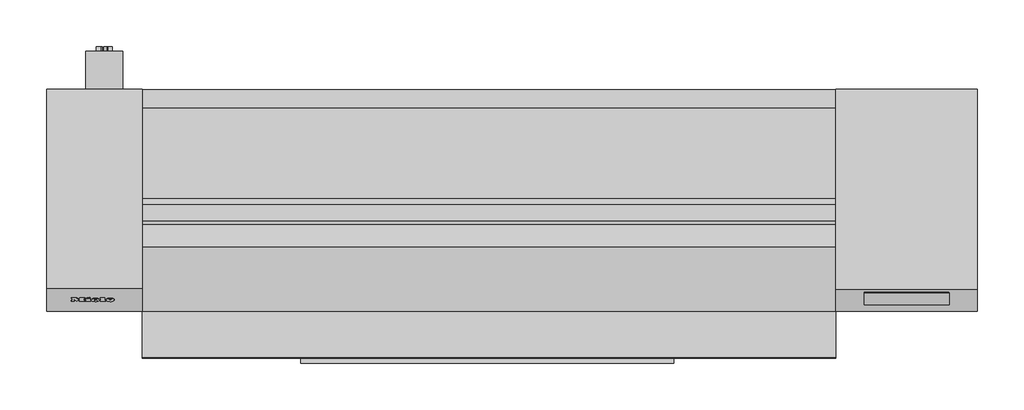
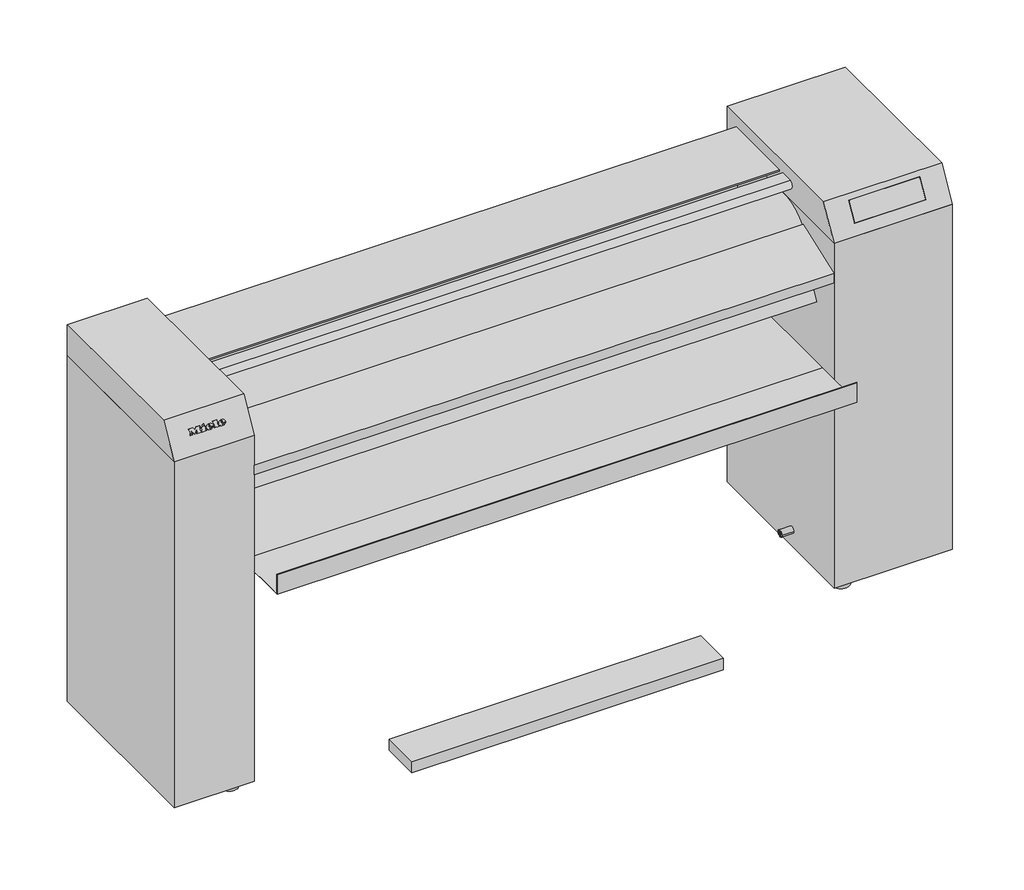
# Not in any storey: 1 proxy.
"""IFC4 building model written with IfcOpenShell, lengths in millimetres."""

import ifcopenshell
import ifcopenshell.guid

model = None  # the IFC model being written
_history = None  # IfcOwnerHistory: only IFC2X3 demands one
_inside = {}  # id of a spatial element -> (the spatial element, [elements in it])
_under = {}  # id of a project, library or spatial element -> (it, [spatial elements below it])
_declared = {}  # id of a project -> (the project, [libraries it declares])
_typed = {}  # id of a type object -> (the type object, [elements of that type])
_made_of = {}  # id of a material, layer set ... -> (it, [elements and type objects made of it])


def new_model(schema):
    """Start an empty IFC model of exactly this schema.

    Asked for "IFC4X3", IfcOpenShell would pick the latest addendum, in which some entities
    have other attributes; the version numbers below select the first issue.
    IFC2X3 requires an IfcOwnerHistory on every rooted entity: one is made here for all.
    """
    global model, _history
    if schema == "IFC4X3":
        model = ifcopenshell.file(schema_version=(4, 3, 0, 0))
    else:
        model = ifcopenshell.file(schema=schema)
    _inside.clear()
    _under.clear()
    _declared.clear()
    _typed.clear()
    _made_of.clear()
    _history = None
    if model.schema == "IFC2X3":
        org = make("IfcOrganization", Name="unknown")
        user = make(
            "IfcPersonAndOrganization",
            ThePerson=make("IfcPerson", FamilyName="unknown"),
            TheOrganization=org,
        )
        app = make(
            "IfcApplication",
            ApplicationDeveloper=org,
            Version="unknown",
            ApplicationFullName="unknown",
            ApplicationIdentifier="unknown",
        )
        _history = make(
            "IfcOwnerHistory",
            OwningUser=user,
            OwningApplication=app,
            ChangeAction="ADDED",
            CreationDate=0,
        )
    return model


def make(cls, **values):
    """One entity of the class cls with the attributes given. An attribute that is None is left unset."""
    return model.create_entity(
        cls, **{name: value for name, value in values.items() if value is not None}
    )


def rooted(cls, **values):
    """An entity with a GlobalId (a new one), such as an element, a storey or a relation."""
    return make(cls, GlobalId=ifcopenshell.guid.new(), OwnerHistory=_history, **values)


def si_unit(unit_type, name, prefix=None):
    """IfcSIUnit, for example si_unit("LENGTHUNIT", "METRE", prefix="MILLI")."""
    return make("IfcSIUnit", UnitType=unit_type, Prefix=prefix, Name=name)


def assignment(units):
    """IfcUnitAssignment: the units of a project."""
    return None if units is None else make("IfcUnitAssignment", Units=units)


def point(xyz):
    """IfcCartesianPoint."""
    return None if xyz is None else make("IfcCartesianPoint", Coordinates=xyz)


def direction(xyz):
    """IfcDirection."""
    return None if xyz is None else make("IfcDirection", DirectionRatios=xyz)


def frame(location, z_axis=None, x_axis=None):
    """IfcAxis2Placement3D, a coordinate frame: its origin and axes. An axis left out is left unset."""
    return make(
        "IfcAxis2Placement3D",
        Location=point(location),
        Axis=direction(z_axis),
        RefDirection=direction(x_axis),
    )


def frame_2d(location, x_axis=None):
    """IfcAxis2Placement2D, a coordinate frame in the plane: its origin and x axis."""
    return make(
        "IfcAxis2Placement2D", Location=point(location), RefDirection=direction(x_axis)
    )


def origin():
    """The frame at (0, 0, 0) with its axes left unset."""
    return frame((0.0, 0.0, 0.0))


def place(relative_to, where):
    """IfcLocalPlacement: puts the frame where relative to a parent placement (None: the world)."""
    return make(
        "IfcLocalPlacement", PlacementRelTo=relative_to, RelativePlacement=where
    )


def context(
    kind, dimensions, precision=None, world=None, true_north=None, identifier=None
):
    """IfcGeometricRepresentationContext, for example the 3D "Model" context."""
    return make(
        "IfcGeometricRepresentationContext",
        ContextIdentifier=identifier,
        ContextType=kind,
        CoordinateSpaceDimension=dimensions,
        Precision=precision,
        WorldCoordinateSystem=world,
        TrueNorth=true_north,
    )


def project(units=None, contexts=None):
    """IfcProject with its units and contexts."""
    return rooted(
        "IfcProject",
        Name="project",
        RepresentationContexts=contexts,
        UnitsInContext=assignment(units),
    )


def spatial(cls, under=None, at=None, **own):
    """A site, building, storey or space (cls), placed at a placement, below another one or the project."""
    s = rooted(cls, ObjectPlacement=at, **own)
    if under is not None:
        _under.setdefault(under.id(), (under, []))[1].append(s)
    return s


def polyline(points):
    """IfcPolyline through the points."""
    return make("IfcPolyline", Points=[point(p) for p in points])


def circle_curve(where, radius):
    """IfcCircle in the frame where."""
    return make("IfcCircle", Position=where, Radius=radius)


def ellipse_curve(where, semi_axis1, semi_axis2):
    """IfcEllipse in the frame where."""
    return make(
        "IfcEllipse", Position=where, SemiAxis1=semi_axis1, SemiAxis2=semi_axis2
    )


def trimmed(basis, trim1, trim2, sense, master):
    """IfcTrimmedCurve: the piece of a basis curve between two trims."""
    return make(
        "IfcTrimmedCurve",
        BasisCurve=basis,
        Trim1=trim1,
        Trim2=trim2,
        SenseAgreement=sense,
        MasterRepresentation=master,
    )


def segment(curve, same_sense, transition):
    """IfcCompositeCurveSegment."""
    return make(
        "IfcCompositeCurveSegment",
        Transition=transition,
        SameSense=same_sense,
        ParentCurve=curve,
    )


def composite_curve(segments, self_intersect=None):
    """IfcCompositeCurve: segments joined end to end."""
    return make("IfcCompositeCurve", Segments=segments, SelfIntersect=self_intersect)


def outline(outer, holes=None, kind="AREA"):
    """IfcArbitraryClosedProfileDef: a profile drawn as a closed curve; with holes, ...WithVoids."""
    if holes is None:
        return make("IfcArbitraryClosedProfileDef", ProfileType=kind, OuterCurve=outer)
    return make(
        "IfcArbitraryProfileDefWithVoids",
        ProfileType=kind,
        OuterCurve=outer,
        InnerCurves=holes,
    )


def extrude(swept, where, along, depth):
    """IfcExtrudedAreaSolid: the profile swept, set in the frame where, extruded along a direction by depth."""
    return make(
        "IfcExtrudedAreaSolid",
        SweptArea=swept,
        Position=where,
        ExtrudedDirection=direction(along),
        Depth=depth,
    )


def faces_of(points, faces, orient=None, outer=None):
    """IfcFace entities. A face is a list of loops; a loop is a list of indices into points, from 0.

    orient and outer hold one flag for each loop. By default every Orientation is true, the
    first loop of a face is its IfcFaceOuterBound and the others are IfcFaceBound.
    """
    made = []
    for i, loops in enumerate(faces):
        bounds = []
        for j, loop in enumerate(loops):
            is_outer = j == 0 if outer is None else outer[i][j]
            bounds.append(
                make(
                    "IfcFaceOuterBound" if is_outer else "IfcFaceBound",
                    Bound=make("IfcPolyLoop", Polygon=[points[k] for k in loop]),
                    Orientation=True if orient is None else orient[i][j],
                )
            )
        made.append(make("IfcFace", Bounds=bounds))
    return made


def faceted_brep(points, faces, orient=None, outer=None, voids=None):
    """IfcFacetedBrep: a solid bounded by flat faces; with voids (closed shells), ...WithVoids."""
    shared = [point(p) for p in points]
    hull = make("IfcClosedShell", CfsFaces=faces_of(shared, faces, orient, outer))
    if voids is None:
        return make("IfcFacetedBrep", Outer=hull)
    return make(
        "IfcFacetedBrepWithVoids",
        Outer=hull,
        Voids=[
            make(cls, CfsFaces=faces_of(shared, fs, o, b)) for cls, fs, o, b in voids
        ],
    )


def shape(context_of_items, identifier, shape_type, items):
    """IfcShapeRepresentation: the items that make up one representation, for example the "Body"."""
    return make(
        "IfcShapeRepresentation",
        ContextOfItems=context_of_items,
        RepresentationIdentifier=identifier,
        RepresentationType=shape_type,
        Items=items,
    )


def source(mapping_origin, context_of_items, identifier, shape_type, items):
    """IfcRepresentationMap: a shape defined once, which mapped items show again and again."""
    return make(
        "IfcRepresentationMap",
        MappingOrigin=mapping_origin,
        MappedRepresentation=shape(context_of_items, identifier, shape_type, items),
    )


def transform(
    local_origin,
    x_axis=None,
    y_axis=None,
    z_axis=None,
    scale=None,
    scale2=None,
    scale3=None,
    uniform=True,
):
    """IfcCartesianTransformationOperator3D, or its non-uniform kind. x_axis, y_axis, z_axis: its Axis1, 2, 3."""
    if uniform:
        return make(
            "IfcCartesianTransformationOperator3D",
            Axis1=direction(x_axis),
            Axis2=direction(y_axis),
            LocalOrigin=point(local_origin),
            Scale=scale,
            Axis3=direction(z_axis),
        )
    return make(
        "IfcCartesianTransformationOperator3DnonUniform",
        Axis1=direction(x_axis),
        Axis2=direction(y_axis),
        LocalOrigin=point(local_origin),
        Scale=scale,
        Axis3=direction(z_axis),
        Scale2=scale2,
        Scale3=scale3,
    )


def mapped(mapping_source, mapping_target):
    """IfcMappedItem: shows the shape of a source again, moved by a transform."""
    return make(
        "IfcMappedItem", MappingSource=mapping_source, MappingTarget=mapping_target
    )


def made_of(thing, what):
    """Note that an element or type object is made of a material, layer set ...; save() writes the relation."""
    if what is not None:
        _made_of.setdefault(what.id(), (what, []))[1].append(thing)
    return thing


def element(
    cls,
    number,
    at=None,
    inside=None,
    cuts=None,
    type_object=None,
    material=None,
    context=None,
    identifier="Body",
    shape_type=None,
    held_by="IfcProductDefinitionShape",
    body=None,
    shapes=None,
    **own,
):
    """One element of the class cls, such as IfcWall. Its Tag is "e" and its number.

    at: its placement. inside: the storey or other place that contains it. cuts: it is an
    opening in that element (IfcRelVoidsElement). A single representation is given by context,
    identifier, shape_type and body (its items); several are given by shapes. held_by: the class
    of the entity that holds the representations. save() writes the other relations.
    """
    e = rooted(cls, Tag="e%d" % number, ObjectPlacement=at, **own)
    if body is not None:
        shapes = [shape(context, identifier, shape_type, body)]
    if shapes is not None:
        e.Representation = make(held_by, Representations=shapes)
    if inside is not None:
        _inside.setdefault(inside.id(), (inside, []))[1].append(e)
    if cuts is not None:
        rooted(
            "IfcRelVoidsElement", RelatingBuildingElement=cuts, RelatedOpeningElement=e
        )
    if type_object is not None:
        _typed.setdefault(type_object.id(), (type_object, []))[1].append(e)
    return made_of(e, material)


def aggregate(whole, parts):
    """IfcRelAggregates: a whole, such as a stair, and the parts it consists of."""
    return rooted("IfcRelAggregates", RelatingObject=whole, RelatedObjects=parts)


def save(model, path):
    """Write the relations noted so far, then the file.

    IfcRelAggregates (storeys below a building ...), IfcRelContainedInSpatialStructure (elements
    in a storey), IfcRelDefinesByType, IfcRelAssociatesMaterial and IfcRelDeclares: one each for
    every whole, place, type object, material and project.
    """
    for whole, parts in _under.values():
        aggregate(whole, parts)
    for where, things in _inside.values():
        rooted(
            "IfcRelContainedInSpatialStructure",
            RelatedElements=things,
            RelatingStructure=where,
        )
    for kind, things in _typed.values():
        rooted("IfcRelDefinesByType", RelatedObjects=things, RelatingType=kind)
    for what, things in _made_of.values():
        rooted("IfcRelAssociatesMaterial", RelatedObjects=things, RelatingMaterial=what)
    for by, libraries in _declared.values():
        rooted("IfcRelDeclares", RelatingContext=by, RelatedDefinitions=libraries)
    model.write(path)


def plane_surface(at):
    """IfcPlane: the flat surface through the origin of the frame at, square to its z axis."""
    return make("IfcPlane", Position=at)


def cylinder_surface(at, radius):
    """IfcCylindricalSurface: all points at the distance radius from the z axis of the frame at."""
    return make("IfcCylindricalSurface", Position=at, Radius=radius)


def revolved_surface(curve, axis_point, axis_direction):
    """IfcSurfaceOfRevolution: the curve turned about the line through axis_point along axis_direction."""
    return make(
        "IfcSurfaceOfRevolution",
        SweptCurve=make("IfcArbitraryOpenProfileDef", ProfileType="CURVE", Curve=curve),
        AxisPosition=make("IfcAxis1Placement", Location=point(axis_point), Axis=direction(axis_direction)),
    )


def extruded_surface(curve, direction_of_extrusion, depth):
    """IfcSurfaceOfLinearExtrusion: the curve pushed along a direction by depth."""
    return make(
        "IfcSurfaceOfLinearExtrusion",
        SweptCurve=make("IfcArbitraryOpenProfileDef", ProfileType="CURVE", Curve=curve),
        ExtrudedDirection=direction(direction_of_extrusion),
        Depth=depth,
    )


def advanced_brep(points, edges, surfaces, faces):
    """IfcAdvancedBrep: a solid bounded by faces that lie on surfaces and meet in shared edges.

    An edge is (start, end): straight between two places in points (the first is 0);
    or (start, end, curve); or (start, end, curve, False) where it runs against its curve.
    A face is (place in surfaces, loops), or (place, loops, False) where it looks against
    its surface's normal. A loop lists edges by number (the first is 1), with a minus sign
    where the edge is run from its end to its start. The first loop is the outer one.
    """
    corners = [point(p) for p in points]
    vertices = [make("IfcVertexPoint", VertexGeometry=c) for c in corners]
    made = []
    for start, end, *more in edges:
        made.append(
            make(
                "IfcEdgeCurve",
                EdgeStart=vertices[start],
                EdgeEnd=vertices[end],
                EdgeGeometry=more[0] if more else make("IfcPolyline", Points=[corners[start], corners[end]]),
                SameSense=more[1] if len(more) > 1 else True,
            )
        )
    hull = []
    for where, loops, *sense in faces:
        bounds = []
        for j, loop in enumerate(loops):
            ring = [make("IfcOrientedEdge", EdgeElement=made[abs(k) - 1], Orientation=k > 0) for k in loop]
            bounds.append(
                make(
                    "IfcFaceOuterBound" if j == 0 else "IfcFaceBound",
                    Bound=make("IfcEdgeLoop", EdgeList=ring),
                    Orientation=True,
                )
            )
        hull.append(make("IfcAdvancedFace", Bounds=bounds, FaceSurface=surfaces[where], SameSense=sense[0] if sense else True))
    return make("IfcAdvancedBrep", Outer=make("IfcClosedShell", CfsFaces=hull))


def specialty_equipment_5863dd85(model_context):
    return source(origin(), model_context, "Body", "SolidModel", [
        advanced_brep(
        [(-852.7523169, -447.1698462, 991.5429863), (-852.7523169, -446.4123462, 992.8550148), (-842.7173169, -446.4123462, 992.8550148), (-860.1773169, -446.4123462, 992.8550148), (-856.0523169, -448.9473462, 988.464266), (-842.9723169, -447.1698462, 991.5429863), (-847.5023169, -447.1698462, 991.5429863), (-851.0723169, -448.0098462, 990.0880637), (-852.7523169, -445.4523462, 994.5177836), (-852.7523169, -444.6348462, 995.9337351), (-850.1873169, -444.6348462, 995.9337351), (-850.1873169, -445.4523462, 994.5177836), (-852.7523169, -446.3038208, 991.0429863), (-851.0723169, -447.1438208, 989.5880637), (-847.5023169, -446.3038208, 991.0429863), (-842.9723169, -446.3038208, 991.0429863), (-856.0523169, -448.0813208, 987.964266), (-860.1773169, -445.5463208, 992.3550148), (-842.7173169, -445.5463208, 992.3550148), (-852.7523169, -445.5463208, 992.3550148), (-852.7523169, -444.5863208, 994.0177836), (-850.1873169, -444.5863208, 994.0177836), (-850.1873169, -443.7688208, 995.4337351), (-852.7523169, -443.7688208, 995.4337351)],
        [
            (0, 1),
            (1, 2),
            (2, 3, ellipse_curve(frame((-851.4473169, -446.4123462, 992.8550148), z_axis=(0.0, -0.8660254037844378, 0.5000000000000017), x_axis=(-1.0, 0.0, 0.0)), 8.73, 7.215)),
            (3, 4, circle_curve(frame((-854.3722351, -446.1573462, 993.2966878), z_axis=(0.0, -0.8660254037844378, 0.5000000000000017), x_axis=(0.0, -0.5000000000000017, -0.8660254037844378)), 5.8274415)),
            (4, 5, circle_curve(frame((-851.6220789, -444.1773462, 996.7261484), z_axis=(0.0, -0.8660254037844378, 0.5000000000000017), x_axis=(0.0, -0.5000000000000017, -0.8660254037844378)), 10.5184889)),
            (5, 6),
            (6, 7, circle_curve(frame((-850.3390816, -446.4723462, 992.7510918), z_axis=(0.0, 0.8660254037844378, -0.5000000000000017), x_axis=(0.0, -0.5000000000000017, -0.8660254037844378)), 3.1612116)),
            (7, 0, circle_curve(frame((-851.0723169, -447.1698462, 991.5429863), z_axis=(0.0, 0.8660254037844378, -0.5000000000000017), x_axis=(0.0, -0.5000000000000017, -0.8660254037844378)), 1.68)),
            (8, 9),
            (9, 10, circle_curve(frame((-851.4698169, -444.6348462, 995.9337351), z_axis=(0.0, 0.8660254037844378, -0.5000000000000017), x_axis=(0.0, -0.5000000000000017, -0.8660254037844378)), 1.2825)),
            (10, 11),
            (11, 8),
            (12, 13, circle_curve(frame((-851.0723169, -446.3038208, 991.0429863), z_axis=(0.0, -0.8660254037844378, 0.5000000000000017), x_axis=(0.0, -0.5000000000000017, -0.8660254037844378)), 1.68)),
            (13, 14, circle_curve(frame((-850.3390816, -445.6063208, 992.2510918), z_axis=(0.0, -0.8660254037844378, 0.5000000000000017), x_axis=(0.0, -0.5000000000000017, -0.8660254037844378)), 3.1612116)),
            (14, 15),
            (15, 16, circle_curve(frame((-851.6220789, -443.3113208, 996.2261484), z_axis=(0.0, 0.8660254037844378, -0.5000000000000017), x_axis=(0.0, -0.5000000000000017, -0.8660254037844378)), 10.5184889)),
            (16, 17, circle_curve(frame((-854.3722351, -445.2913208, 992.7966878), z_axis=(0.0, 0.8660254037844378, -0.5000000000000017), x_axis=(0.0, -0.5000000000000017, -0.8660254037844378)), 5.8274415)),
            (17, 18, ellipse_curve(frame((-851.4473169, -445.5463208, 992.3550148), z_axis=(0.0, 0.8660254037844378, -0.5000000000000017), x_axis=(-1.0, 0.0, 0.0)), 8.73, 7.215)),
            (18, 19),
            (19, 12),
            (20, 21),
            (21, 22),
            (22, 23, circle_curve(frame((-851.4698169, -443.7688208, 995.4337351), z_axis=(0.0, -0.8660254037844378, 0.5000000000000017), x_axis=(0.0, -0.5000000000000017, -0.8660254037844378)), 1.2825)),
            (23, 20),
            (0, 12),
            (19, 1),
            (18, 2),
            (5, 15),
            (14, 6),
            (17, 3),
            (13, 7),
            (16, 4),
            (8, 20),
            (23, 9),
            (22, 10),
            (21, 11),
        ],
        [
            plane_surface(frame((-852.7523169, -446.4123462, 992.8550148), z_axis=(0.0, -0.8660254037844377, 0.5000000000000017), x_axis=(0.0, 0.5000000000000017, 0.8660254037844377))),
            plane_surface(frame((-852.7523169, -445.5463208, 992.3550148), z_axis=(0.0, 0.8660254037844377, -0.5000000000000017), x_axis=(0.0, -0.5000000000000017, -0.8660254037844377))),
            plane_surface(frame((-852.7523169, -447.1698462, 991.5429863), z_axis=(1.0, 0.0, 0.0), x_axis=(0.0, 0.866025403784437, -0.5000000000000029))),
            plane_surface(frame((-852.7523169, -446.4123462, 992.8550148), z_axis=(0.0, -0.5000000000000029, -0.866025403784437), x_axis=(0.0, 0.866025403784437, -0.5000000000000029))),
            plane_surface(frame((-842.9723169, -447.1698462, 991.5429863), z_axis=(0.0, 0.5000000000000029, 0.866025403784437), x_axis=(0.0, 0.866025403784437, -0.5000000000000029))),
            extruded_surface(trimmed(ellipse_curve(frame((-851.4473169, -444.6802954, 991.8550148), z_axis=(0.0, -0.8660254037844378, 0.5000000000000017), x_axis=(-1.0, 0.0, 0.0)), 8.73, 7.215), [point((-842.7173169, -444.6802954, 991.8550148))], [point((-860.1773169, -444.6802954, 991.8550148))], True, "CARTESIAN"), (0.0, -0.8660254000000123, 0.5), 0.9999999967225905),
            revolved_surface(polyline([(-850.3390816, -447.18692657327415, 989.5134022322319), (-850.3390816, -448.0529520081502, 990.0134022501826)]), (-850.3390816, -445.6063208, 992.2510918), (0.0, 0.8660254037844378, -0.5000000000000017)),
            revolved_surface(polyline([(-851.0723169, -447.14382079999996, 989.5880636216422), (-851.0723169, -448.009846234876, 990.088063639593)]), (-851.0723169, -446.3038208, 991.0429863), (0.0, 0.8660254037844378, -0.5000000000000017)),
            cylinder_surface(frame((-854.3722351, -445.2913208, 992.7966878), z_axis=(0.0, -0.8660254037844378, 0.5000000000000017), x_axis=(0.0, -0.5000000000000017, -0.8660254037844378)), 5.8274415),
            cylinder_surface(frame((-851.6220789, -443.3113208, 996.2261484), z_axis=(0.0, -0.8660254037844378, 0.5000000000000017), x_axis=(0.0, -0.5000000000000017, -0.8660254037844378)), 10.5184889),
            plane_surface(frame((-852.7523169, -445.4523462, 994.5177836), z_axis=(1.0, 0.0, 0.0), x_axis=(0.0, 0.866025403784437, -0.5000000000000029))),
            revolved_surface(polyline([(-851.4698169, -444.4100708, 994.3230575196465), (-851.4698169, -445.27609620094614, 994.8230575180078)]), (-851.4698169, -443.7688208, 995.4337351), (0.0, 0.8660254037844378, -0.5000000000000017)),
            plane_surface(frame((-850.1873169, -444.6348462, 995.9337351), z_axis=(-1.0, 0.0, 0.0), x_axis=(0.0, 0.866025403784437, -0.5000000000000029))),
            plane_surface(frame((-850.1873169, -445.4523462, 994.5177836), z_axis=(0.0, 0.5000000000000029, 0.866025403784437), x_axis=(0.0, 0.866025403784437, -0.5000000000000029))),
        ],
        [
            (0, [[1, 2, 3, 4, 5, 6, 7, 8], [9, 10, 11, 12]]),
            (1, [[13, 14, 15, 16, 17, 18, 19, 20], [21, 22, 23, 24]]),
            (2, [[-1, 25, -20, 26]]),
            (3, [[-2, -26, -19, 27]]),
            (4, [[-6, 28, -15, 29]]),
            (5, [[-3, -27, -18, 30]]),
            (6, [[-7, -29, -14, 31]]),
            (7, [[-8, -31, -13, -25]]),
            (8, [[-4, -30, -17, 32]]),
            (9, [[-5, -32, -16, -28]]),
            (10, [[-9, 33, -24, 34]]),
            (11, [[-10, -34, -23, 35]]),
            (12, [[-11, -35, -22, 36]]),
            (13, [[-12, -36, -21, -33]]),
        ],
    ),
        advanced_brep(
        [(-884.0573169, -447.2109601, 991.7728003), (-884.0573169, -446.4534601, 993.0848288), (-874.0223169, -446.4534601, 993.0848288), (-891.4823169, -446.4534601, 993.0848288), (-887.3573169, -448.9884601, 988.69408), (-874.2773169, -447.2109601, 991.7728003), (-878.8073169, -447.2109601, 991.7728003), (-882.3773169, -448.0509601, 990.3178776), (-884.0573169, -445.4934601, 994.7475976), (-884.0573169, -444.6759601, 996.1635491), (-881.4923169, -444.6759601, 996.1635491), (-881.4923169, -445.4934601, 994.7475976), (-884.0573169, -446.3449347, 991.2728003), (-882.3773169, -447.1849347, 989.8178776), (-878.8073169, -446.3449347, 991.2728003), (-874.2773169, -446.3449347, 991.2728003), (-887.3573169, -448.1224347, 988.19408), (-891.4823169, -445.5874347, 992.5848288), (-874.0223169, -445.5874347, 992.5848288), (-884.0573169, -445.5874347, 992.5848288), (-884.0573169, -444.6274347, 994.2475976), (-881.4923169, -444.6274347, 994.2475976), (-881.4923169, -443.8099347, 995.6635491), (-884.0573169, -443.8099347, 995.6635491)],
        [
            (0, 1),
            (1, 2),
            (2, 3, ellipse_curve(frame((-882.7523169, -446.4534601, 993.0848288), z_axis=(0.0, -0.8660254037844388, 0.4999999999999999), x_axis=(-1.0, 0.0, 0.0)), 8.73, 7.215)),
            (3, 4, circle_curve(frame((-885.6772351, -446.1984601, 993.5265018), z_axis=(0.0, -0.8660254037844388, 0.4999999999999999), x_axis=(0.0, -0.4999999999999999, -0.8660254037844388)), 5.8274415)),
            (4, 5, circle_curve(frame((-882.9270789, -444.2184601, 996.9559624), z_axis=(0.0, -0.8660254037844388, 0.4999999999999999), x_axis=(0.0, -0.4999999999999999, -0.8660254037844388)), 10.5184889)),
            (5, 6),
            (6, 7, circle_curve(frame((-881.6440816, -446.5134601, 992.9809058), z_axis=(0.0, 0.8660254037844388, -0.4999999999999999), x_axis=(0.0, -0.4999999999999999, -0.8660254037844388)), 3.1612116)),
            (7, 0, circle_curve(frame((-882.3773169, -447.2109601, 991.7728003), z_axis=(0.0, 0.8660254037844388, -0.4999999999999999), x_axis=(0.0, -0.4999999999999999, -0.8660254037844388)), 1.68)),
            (8, 9),
            (9, 10, circle_curve(frame((-882.7748169, -444.6759601, 996.1635491), z_axis=(0.0, 0.8660254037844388, -0.4999999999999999), x_axis=(0.0, -0.4999999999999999, -0.8660254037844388)), 1.2825)),
            (10, 11),
            (11, 8),
            (12, 13, circle_curve(frame((-882.3773169, -446.3449347, 991.2728003), z_axis=(0.0, -0.8660254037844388, 0.4999999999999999), x_axis=(0.0, -0.4999999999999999, -0.8660254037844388)), 1.68)),
            (13, 14, circle_curve(frame((-881.6440816, -445.6474347, 992.4809058), z_axis=(0.0, -0.8660254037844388, 0.4999999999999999), x_axis=(0.0, -0.4999999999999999, -0.8660254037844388)), 3.1612116)),
            (14, 15),
            (15, 16, circle_curve(frame((-882.9270789, -443.3524347, 996.4559624), z_axis=(0.0, 0.8660254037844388, -0.4999999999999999), x_axis=(0.0, -0.4999999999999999, -0.8660254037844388)), 10.5184889)),
            (16, 17, circle_curve(frame((-885.6772351, -445.3324347, 993.0265018), z_axis=(0.0, 0.8660254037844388, -0.4999999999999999), x_axis=(0.0, -0.4999999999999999, -0.8660254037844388)), 5.8274415)),
            (17, 18, ellipse_curve(frame((-882.7523169, -445.5874347, 992.5848288), z_axis=(0.0, 0.8660254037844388, -0.4999999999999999), x_axis=(-1.0, 0.0, 0.0)), 8.73, 7.215)),
            (18, 19),
            (19, 12),
            (20, 21),
            (21, 22),
            (22, 23, circle_curve(frame((-882.7748169, -443.8099347, 995.6635491), z_axis=(0.0, -0.8660254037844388, 0.4999999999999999), x_axis=(0.0, -0.4999999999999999, -0.8660254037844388)), 1.2825)),
            (23, 20),
            (0, 12),
            (19, 1),
            (18, 2),
            (5, 15),
            (14, 6),
            (17, 3),
            (13, 7),
            (16, 4),
            (8, 20),
            (23, 9),
            (22, 10),
            (21, 11),
        ],
        [
            plane_surface(frame((-884.0573169, -446.4534601, 993.0848288), z_axis=(0.0, -0.8660254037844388, 0.49999999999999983), x_axis=(0.0, 0.49999999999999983, 0.8660254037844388))),
            plane_surface(frame((-884.0573169, -445.5874347, 992.5848288), z_axis=(0.0, 0.8660254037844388, -0.49999999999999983), x_axis=(0.0, -0.49999999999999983, -0.8660254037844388))),
            plane_surface(frame((-884.0573169, -447.2109601, 991.7728003), z_axis=(1.0, 0.0, 0.0), x_axis=(0.0, 0.866025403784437, -0.5000000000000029))),
            plane_surface(frame((-884.0573169, -446.4534601, 993.0848288), z_axis=(0.0, -0.5000000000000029, -0.866025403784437), x_axis=(0.0, 0.866025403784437, -0.5000000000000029))),
            plane_surface(frame((-874.2773169, -447.2109601, 991.7728003), z_axis=(0.0, 0.5000000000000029, 0.866025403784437), x_axis=(0.0, 0.866025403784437, -0.5000000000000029))),
            extruded_surface(trimmed(ellipse_curve(frame((-882.7523169, -444.7214093, 992.0848288), z_axis=(0.0, -0.8660254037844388, 0.4999999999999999), x_axis=(-1.0, 0.0, 0.0)), 8.73, 7.215), [point((-874.0223169, -444.7214093, 992.0848288))], [point((-891.4823169, -444.7214093, 992.0848288))], True, "CARTESIAN"), (0.0, -0.8660254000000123, 0.5), 0.9999999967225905),
            revolved_surface(polyline([(-881.6440816, -447.2280404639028, 989.7432162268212), (-881.6440816, -448.0940659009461, 990.2432162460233)]), (-881.6440816, -445.6474347, 992.4809058), (0.0, 0.8660254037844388, -0.4999999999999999)),
            revolved_surface(polyline([(-882.3773169, -447.18493469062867, 989.8178776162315), (-882.3773169, -448.0509601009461, 990.3178776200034)]), (-882.3773169, -446.3449347, 991.2728003), (0.0, 0.8660254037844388, -0.4999999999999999)),
            cylinder_surface(frame((-885.6772351, -445.3324347, 993.0265018), z_axis=(0.0, -0.8660254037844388, 0.4999999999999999), x_axis=(0.0, -0.4999999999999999, -0.8660254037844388)), 5.8274415),
            cylinder_surface(frame((-882.9270789, -443.3524347, 996.4559624), z_axis=(0.0, -0.8660254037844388, 0.4999999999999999), x_axis=(0.0, -0.4999999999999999, -0.8660254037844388)), 10.5184889),
            plane_surface(frame((-884.0573169, -445.4934601, 994.7475976), z_axis=(1.0, 0.0, 0.0), x_axis=(0.0, 0.866025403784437, -0.5000000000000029))),
            revolved_surface(polyline([(-882.7748169, -444.4511847, 994.5528715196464), (-882.7748169, -445.3172101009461, 995.0528715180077)]), (-882.7748169, -443.8099347, 995.6635491), (0.0, 0.8660254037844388, -0.4999999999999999)),
            plane_surface(frame((-881.4923169, -444.6759601, 996.1635491), z_axis=(-1.0, 0.0, 0.0), x_axis=(0.0, 0.866025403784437, -0.5000000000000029))),
            plane_surface(frame((-881.4923169, -445.4934601, 994.7475976), z_axis=(0.0, 0.5000000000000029, 0.866025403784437), x_axis=(0.0, 0.866025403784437, -0.5000000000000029))),
        ],
        [
            (0, [[1, 2, 3, 4, 5, 6, 7, 8], [9, 10, 11, 12]]),
            (1, [[13, 14, 15, 16, 17, 18, 19, 20], [21, 22, 23, 24]]),
            (2, [[-1, 25, -20, 26]]),
            (3, [[-2, -26, -19, 27]]),
            (4, [[-6, 28, -15, 29]]),
            (5, [[-3, -27, -18, 30]]),
            (6, [[-7, -29, -14, 31]]),
            (7, [[-8, -31, -13, -25]]),
            (8, [[-4, -30, -17, 32]]),
            (9, [[-5, -32, -16, -28]]),
            (10, [[-9, 33, -24, 34]]),
            (11, [[-10, -34, -23, 35]]),
            (12, [[-11, -35, -22, 36]]),
            (13, [[-12, -36, -21, -33]]),
        ],
    ),
        extrude(outline(polyline([(0.0, 0.0), (-0.0204536, -5.6237427), (-2.6982028, -5.6101628), (-2.6841199, 0.0), (0.0, 0.0)])), frame((-900.4523169, -441.3274347, 999.9633652), z_axis=(0.0, -0.8660254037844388, 0.49999999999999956), x_axis=(-0.42472021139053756, 0.45266233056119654, 0.7840341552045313)), (0.0, 0.0, 1.0), 1.0),
        extrude(outline(polyline([(-0.9251077, 4.5264556), (-5.2126582, -4.6127968), (-13.2112016, -0.8603938), (-13.9502147, -2.4356587), (-16.2316329, -1.3653637), (-11.2050692, 9.3491536), (-8.923651, 8.2788587), (-9.6817766, 6.6628542), (-4.11403, 4.0508249), (-3.3559044, 5.6668294), (-0.9251077, 4.5264556)])), frame((-900.4523169, -441.3274347, 999.9633652), z_axis=(0.0, -0.8660254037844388, 0.49999999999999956), x_axis=(-0.42472021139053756, 0.45266233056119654, 0.7840341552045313)), (0.0, 0.0, 1.0), 1.0),
        extrude(outline(polyline([(0.0, 0.0), (0.0, -2.445), (-10.32, -2.445), (-10.32, 10.035), (-12.165, 10.035), (-12.165, 12.555), (0.0, 12.555), (0.0, 10.035), (-1.8, 10.035), (-1.8, 0.0), (0.0, 0.0)])), frame((-873.1823169, -441.8977756, 998.6744804), z_axis=(0.0, -0.8660254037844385, 0.5000000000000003), x_axis=(-1.0, 0.0, 0.0)), (0.0, 0.0, 1.0), 1.0),
        extrude(outline(polyline([(0.0, 0.0), (0.0, -2.445), (-10.455, -2.445), (-14.85, 3.18), (-19.23, -2.445), (-28.365, -2.445), (-28.365, 0.0), (-26.46, 0.0), (-26.46, 10.0350001), (-28.365, 10.0350001), (-28.365, 12.555), (-16.395, 12.555), (-16.395, 10.0350001), (-18.24, 10.0350001), (-18.24, 3.3647778), (-11.505, 12.555), (-4.8, 3.6988753), (-4.8, 10.0350001), (-6.6, 10.0350001), (-6.6, 12.555), (0.0, 12.555), (0.0, 10.0350001), (-1.815, 10.0350001), (-1.815, 0.0), (0.0, 0.0)])), frame((-934.0523169, -441.8229474, 998.8040867), z_axis=(0.0, -0.8660254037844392, 0.4999999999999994), x_axis=(-1.0, 0.0, 0.0)), (0.0, 0.0, 1.0), 1.0),
        extrude(outline(polyline([(-365.9889853, 793.6796927), (-390.6353849, 749.1868935), (-365.9889853, 749.1868935), (-365.9889853, 747.1868935), (-393.8714528, 747.1868935), (-367.9889853, 794.1518286), (-367.9889853, 838.0716898), (-379.8372457, 861.7682107), (-377.0332443, 861.7682107), (-365.9889853, 839.6796927), (-365.9889853, 793.6796927)])), frame((-783.5, 0.0, 0.0), z_axis=(1.0, 0.0, 0.0), x_axis=(0.0, 1.0, 0.0)), (0.0, 0.0, 1.0), 1470.0),
        extrude(outline(polyline([(-395.0, 843.9863336), (-470.0, 843.9863336), (-470.0, 868.9863336), (-334.0, 918.9863336), (-395.0, 843.9863336)])), frame((-783.5, 0.0, 0.0), z_axis=(1.0, 0.0, 0.0), x_axis=(0.0, 1.0, 0.0)), (0.0, 0.0, 1.0), 1470.0),
        extrude(outline(composite_curve([segment(polyline([(-244.0, 1001.9863336), (-244.0, 965.1103132)]), True, "CONTINUOUS"), segment(trimmed(circle_curve(frame_2d((-245.9233585, 965.1103132)), 1.9233585), [point((-244.0, 965.1103132))], [point((-246.9899766, 963.5098028))], False, "CARTESIAN"), True, "CONTINUOUS"), segment(polyline([(-246.9899766, 963.5098028), (-279.640261, 980.1459536)]), True, "CONTINUOUS"), segment(trimmed(circle_curve(frame_2d((-274.2619572, 990.7014691)), 11.846732), [point((-279.640261, 980.1459536))], [point((-277.8670773, 1001.9863336))], False, "CARTESIAN"), True, "CONTINUOUS"), segment(polyline([(-277.8670773, 1001.9863336), (-244.0, 1001.9863336)]), True, "CONTINUOUS")], self_intersect=False)), frame((-783.5, 0.0, 0.0), z_axis=(1.0, 0.0, 0.0), x_axis=(0.0, 1.0, 0.0)), (0.0, 0.0, 1.0), 1470.0),
        extrude(outline(polyline([(-45.0, 850.9863336), (-40.0, 850.9863336), (-40.0, 803.3618723), (-66.0513656, 731.7863336), (-150.9374699, 731.7863336), (-150.9374699, 736.7863336), (-69.5524033, 736.7863336), (-45.0, 804.2435072), (-45.0, 850.9863336)])), frame((-783.5, 0.0, 0.0), z_axis=(1.0, 0.0, 0.0), x_axis=(0.0, 1.0, 0.0)), (0.0, 0.0, 1.0), 1470.0),
        extrude(outline(polyline([(-40.0, 1001.9863336), (-40.0, 850.9863336), (-45.0, 850.9863336), (-45.0, 996.9863336), (-230.0, 996.9863336), (-230.0, 1001.9863336), (-40.0, 1001.9863336)])), frame((-783.5, 0.0, 0.0), z_axis=(1.0, 0.0, 0.0), x_axis=(0.0, 1.0, 0.0)), (0.0, 0.0, 1.0), 1470.0),
        extrude(outline(polyline([(342.5, -480.0), (342.5, -580.0), (-447.5, -580.0), (-447.5, -480.0), (342.5, -480.0)])), frame((0.0, 0.0, -6.0136664), z_axis=(0.0, 0.0, 1.0), x_axis=(1.0, 0.0, 0.0)), (0.0, 0.0, 1.0), 30.0),
        extrude(outline(polyline([(-422.6572779, 1031.9863336), (0.0, 1031.9863336), (0.0, 949.9863336), (-470.0, 949.9863336), (-422.6572779, 1031.9863336)])), frame((-986.5, 0.0, 0.0), z_axis=(1.0, 0.0, 0.0), x_axis=(0.0, 1.0, 0.0)), (0.0, 0.0, 1.0), 203.0),
        extrude(outline(polyline([(424.6662565, -847.40575), (444.7575185, -855.4255775), (444.7575185, -857.5641981), (424.6662565, -865.5840256), (424.6662565, -862.9303702), (430.9447758, -860.6298814), (430.9447758, -852.3549891), (424.6662565, -850.0594054), (424.6662565, -847.40575)]), holes=[polyline([(433.4561836, -853.2771466), (433.4561836, -859.712629), (438.3956125, -857.9026496), (442.2461107, -856.4948878), (438.8272607, -855.244089), (433.4561836, -853.2771466)])]), frame((0.0, 81.0, 0.0), z_axis=(0.0, 1.0, 0.0), x_axis=(0.0, 0.0, 1.0)), (0.0, 0.0, 1.0), 10.0),
        extrude(outline(polyline([(424.6662565, -868.2671116), (444.7575185, -868.2671116), (444.7575185, -870.7785194), (427.1776642, -870.7785194), (427.1776642, -880.8241504), (424.6662565, -880.8241504), (424.6662565, -868.2671116)])), frame((0.0, 81.0, 0.0), z_axis=(0.0, 1.0, 0.0), x_axis=(0.0, 0.0, 1.0)), (0.0, 0.0, 1.0), 10.0),
        extrude(outline(composite_curve([segment(trimmed(circle_curve(frame_2d((435.9863336, -864.5)), 39.0), [point((435.9863336, -903.5))], [point((435.9863336, -825.5))], False, "CARTESIAN"), True, "CONTINUOUS"), segment(trimmed(circle_curve(frame_2d((435.9863336, -864.5)), 39.0), [point((435.9863336, -825.5))], [point((435.9863336, -903.5))], False, "CARTESIAN"), True, "CONTINUOUS")], self_intersect=False), holes=[composite_curve([segment(trimmed(circle_curve(frame_2d((435.9863336, -864.5)), 33.5), [point((435.9863336, -898.0))], [point((435.9863336, -831.0))], True, "CARTESIAN"), True, "CONTINUOUS"), segment(trimmed(circle_curve(frame_2d((435.9863336, -864.5)), 33.5), [point((435.9863336, -831.0))], [point((435.9863336, -898.0))], True, "CARTESIAN"), True, "CONTINUOUS")], self_intersect=False)]), frame((0.0, 0.0, 0.0), z_axis=(0.0, 1.0, 0.0), x_axis=(0.0, 0.0, 1.0)), (0.0, 0.0, 1.0), 81.0),
        extrude(outline(composite_curve([segment(trimmed(circle_curve(frame_2d((-823.9685993, -40.5)), 21.5), [point((-845.4685993, -40.5))], [point((-802.4685993, -40.5))], False, "CARTESIAN"), True, "CONTINUOUS"), segment(trimmed(circle_curve(frame_2d((-823.9685993, -40.5)), 21.5), [point((-802.4685993, -40.5))], [point((-845.4685993, -40.5))], False, "CARTESIAN"), True, "CONTINUOUS")], self_intersect=False)), frame((0.0, 0.0, -0.0136664), z_axis=(0.0, 0.0, 1.0), x_axis=(1.0, 0.0, 0.0)), (0.0, 0.0, 1.0), 23.0),
        extrude(outline(composite_curve([segment(trimmed(circle_curve(frame_2d((-823.9685993, -429.5)), 21.5), [point((-845.4685993, -429.5))], [point((-802.4685993, -429.5))], False, "CARTESIAN"), True, "CONTINUOUS"), segment(trimmed(circle_curve(frame_2d((-823.9685993, -429.5)), 21.5), [point((-802.4685993, -429.5))], [point((-845.4685993, -429.5))], False, "CARTESIAN"), True, "CONTINUOUS")], self_intersect=False)), frame((0.0, 0.0, -0.0136664), z_axis=(0.0, 0.0, 1.0), x_axis=(1.0, 0.0, 0.0)), (0.0, 0.0, 1.0), 23.0),
        extrude(outline(polyline([(-783.5, 0.0), (-783.5, -470.0), (-986.5, -470.0), (-986.5, 0.0), (-783.5, 0.0)])), frame((0.0, 0.0, 22.9863336), z_axis=(0.0, 0.0, 1.0), x_axis=(1.0, 0.0, 0.0)), (0.0, 0.0, 1.0), 927.0),
        extrude(outline(polyline([(0.0236709, 379.9863336), (-223.5359646, 379.9863336), (-417.2970905, 559.9863336), (0.0236709, 559.9863336), (0.0236709, 379.9863336)])), frame((-783.5, 0.0, 0.0), z_axis=(1.0, 0.0, 0.0), x_axis=(0.0, 1.0, 0.0)), (0.0, 0.0, 1.0), 1470.0),
        extrude(outline(polyline([(686.5, 0.0236709), (686.5, -417.9763291), (-783.5, -417.9763291), (-783.5, 0.0236709), (686.5, 0.0236709)])), frame((0.0, 0.0, 559.9863336), z_axis=(0.0, 0.0, 1.0), x_axis=(1.0, 0.0, 0.0)), (0.0, 0.0, 1.0), 25.0),
        faceted_brep([(986.5, 0.0236709, 949.9863336), (986.5, 0.0236709, 1031.9863336), (986.5, -422.9763291, 1031.9863336), (986.5, -469.9763291, 949.9863336), (686.5, 0.0236709, 949.9863336), (686.5, -469.9763291, 949.9863336), (686.5, -422.9763291, 1031.9863336), (686.5, 0.0236709, 1031.9863336), (746.5, -429.3510672, 1019.6169127), (925.8679662, -429.3510672, 1019.6169127), (925.8679662, -429.8883285, 1019.9271007), (746.5, -429.8883285, 1019.9271007), (746.5, -455.5716302, 974.2015654), (746.5, -455.966272, 974.429412), (925.8679662, -455.5716302, 974.2015654), (925.8679662, -455.966272, 974.429412)], [[[0, 1, 2, 3]], [[4, 5, 6, 7]], [[0, 3, 5, 4]], [[1, 0, 4, 7]], [[8, 9, 10, 11]], [[12, 8, 11, 13]], [[14, 12, 13, 15]], [[9, 14, 15, 10]], [[9, 8, 12, 14]], [[2, 1, 7, 6]], [[3, 2, 6, 5], [11, 10, 15, 13]]]),
        extrude(outline(polyline([(-569.8763291, 583.9863336), (-569.8763291, 636.8577549), (-568.8763291, 636.8577549), (-568.8763291, 584.9863336), (-417.9763291, 584.9863336), (-417.9763291, 583.9863336), (-569.8763291, 583.9863336)])), frame((-783.5, 0.0, 0.0), z_axis=(1.0, 0.0, 0.0), x_axis=(0.0, 1.0, 0.0)), (0.0, 0.0, 1.0), 1470.0),
        extrude(outline(composite_curve([segment(trimmed(circle_curve(frame_2d((727.1327502, -40.4763291)), 21.5), [point((705.6327502, -40.4763291))], [point((748.6327502, -40.4763291))], False, "CARTESIAN"), True, "CONTINUOUS"), segment(trimmed(circle_curve(frame_2d((727.1327502, -40.4763291)), 21.5), [point((748.6327502, -40.4763291))], [point((705.6327502, -40.4763291))], False, "CARTESIAN"), True, "CONTINUOUS")], self_intersect=False)), frame((0.0, 0.0, -0.0136664), z_axis=(0.0, 0.0, 1.0), x_axis=(1.0, 0.0, 0.0)), (0.0, 0.0, 1.0), 25.0),
        extrude(outline(composite_curve([segment(trimmed(circle_curve(frame_2d((727.1327502, -429.4763291)), 21.5), [point((705.6327502, -429.4763291))], [point((748.6327502, -429.4763291))], False, "CARTESIAN"), True, "CONTINUOUS"), segment(trimmed(circle_curve(frame_2d((727.1327502, -429.4763291)), 21.5), [point((748.6327502, -429.4763291))], [point((705.6327502, -429.4763291))], False, "CARTESIAN"), True, "CONTINUOUS")], self_intersect=False)), frame((0.0, 0.0, -0.0136664), z_axis=(0.0, 0.0, 1.0), x_axis=(1.0, 0.0, 0.0)), (0.0, 0.0, 1.0), 25.0),
        extrude(outline(composite_curve([segment(trimmed(circle_curve(frame_2d((-251.3303793, 844.9863336)), 105.0), [point((-356.3303793, 844.9863336))], [point((-146.3303793, 844.9863336))], False, "CARTESIAN"), True, "CONTINUOUS"), segment(trimmed(circle_curve(frame_2d((-251.3303793, 844.9863336)), 105.0), [point((-146.3303793, 844.9863336))], [point((-356.3303793, 844.9863336))], False, "CARTESIAN"), True, "CONTINUOUS")], self_intersect=False), holes=[composite_curve([segment(trimmed(circle_curve(frame_2d((-251.3303793, 844.9863336)), 97.0), [point((-348.3303793, 844.9863336))], [point((-154.3303793, 844.9863336))], True, "CARTESIAN"), True, "CONTINUOUS"), segment(trimmed(circle_curve(frame_2d((-251.3303793, 844.9863336)), 97.0), [point((-154.3303793, 844.9863336))], [point((-348.3303793, 844.9863336))], True, "CARTESIAN"), True, "CONTINUOUS")], self_intersect=False)]), frame((-783.5, 0.0, 0.0), z_axis=(1.0, 0.0, 0.0), x_axis=(0.0, 1.0, 0.0)), (0.0, 0.0, 1.0), 1470.0),
        extrude(outline(polyline([(-277.6341978, 65.1036783), (-285.0114581, 65.1036783), (-285.0114581, 66.3593822), (-278.8899017, 66.3593822), (-278.8899017, 69.6556048), (-284.5405691, 69.6556048), (-284.5405691, 70.9113087), (-278.8899017, 70.9113087), (-278.8899017, 73.8936054), (-284.8544951, 73.8936054), (-284.8544951, 75.1493093), (-277.6341978, 75.1493093), (-277.6341978, 65.1036783)])), frame((655.5, 0.0, 0.0), z_axis=(1.0, 0.0, 0.0), x_axis=(0.0, 1.0, 0.0)), (0.0, 0.0, 1.0), 1.0),
        extrude(outline(polyline([(-286.8950139, 65.1036783), (-293.1735333, 65.1036783), (-293.1735333, 66.3593822), (-288.1507178, 66.3593822), (-288.1507178, 75.1493093), (-286.8950139, 75.1493093), (-286.8950139, 65.1036783)])), frame((655.5, 0.0, 0.0), z_axis=(1.0, 0.0, 0.0), x_axis=(0.0, 1.0, 0.0)), (0.0, 0.0, 1.0), 1.0),
        extrude(outline(composite_curve([segment(trimmed(circle_curve(frame_2d((-284.9763291, 69.9863336)), 8.4760012), [point((-293.4523303, 69.9863336))], [point((-276.5003279, 69.9863336))], False, "CARTESIAN"), True, "CONTINUOUS"), segment(trimmed(circle_curve(frame_2d((-284.9763291, 69.9863336)), 8.4760012), [point((-276.5003279, 69.9863336))], [point((-293.4523303, 69.9863336))], False, "CARTESIAN"), True, "CONTINUOUS")], self_intersect=False)), frame((656.5, 0.0, 0.0), z_axis=(1.0, 0.0, 0.0), x_axis=(0.0, 1.0, 0.0)), (0.0, 0.0, 1.0), 30.0),
        extrude(outline(polyline([(986.5, 0.0236709), (986.5, -469.9763291), (686.5, -469.9763291), (686.5, 0.0236709), (986.5, 0.0236709)])), frame((0.0, 0.0, 24.9863336), z_axis=(0.0, 0.0, 1.0), x_axis=(1.0, 0.0, 0.0)), (0.0, 0.0, 1.0), 925.0),
        extrude(outline(polyline([(0.0, -0.8910477), (0.0, 0.0), (180.0, 0.0), (180.0, -0.8910477), (0.0, -0.8910477)])), frame((926.5, -456.4489109, 974.8961023), z_axis=(0.0, 0.5000000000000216, 0.8660254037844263), x_axis=(-1.0, 0.0, 0.0)), (0.0, 0.0, 1.0), 52.2782797),
    ])


model = new_model("IFC4")

# Units and contexts
model_context = context("Model", 3, world=origin())
ifc_project = project(units=[si_unit("LENGTHUNIT", "METRE", prefix="MILLI")], contexts=[model_context])

# Site, building
site = spatial("IfcSite", under=ifc_project)
building = spatial("IfcBuilding", under=site)

# Proxy
placement = place(None, origin())
specialty_equipment_shape = specialty_equipment_5863dd85(model_context)
element("IfcBuildingElementProxy", 1, Name="11744550_EU_PRI214EL_STW : 53214004_EU_11744550_PRI214EL_STW", ObjectType="11744550_EU_PRI214EL_STW : 53214004_EU_11744550_PRI214EL_STW", at=placement, inside=building, context=model_context, shape_type="MappedRepresentation", body=[
    mapped(specialty_equipment_shape, transform((0.0, 0.0, 0.0), x_axis=(1.0, 0.0, 0.0), y_axis=(0.0, 1.0, 0.0), z_axis=(0.0, 0.0, 1.0))),
])

save(model, "model.ifc")
